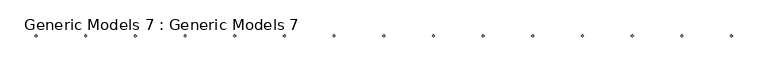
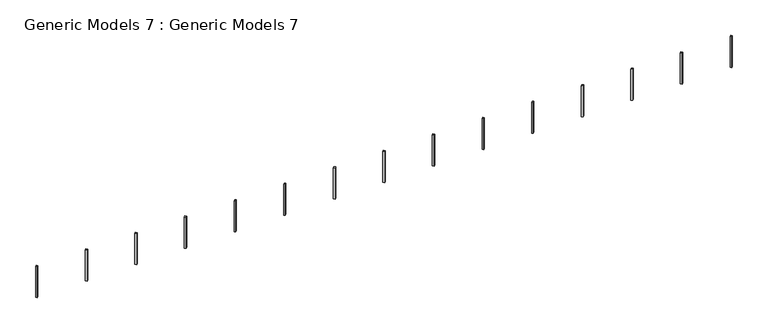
"""IFC4 building model written with IfcOpenShell, lengths in millimetres: proxy geometry, Generic Models 7 : Generic Models 7."""

from ifc_helpers import new_model, si_unit, frame, origin, place, context, project, spatial, polyline, outline, extrude, source, transform, mapped, element, save


def generic_models_7_generic_models_7_7c2eb50a(model_context):
    return source(origin(), model_context, "Body", "SweptSolid", [
        extrude(outline(polyline([(-131782.955023, -33391.4795591), (-131924.3763793, -33532.9009153), (-132065.7977355, -33391.4795591), (-131924.3763793, -33250.0582029), (-131782.955023, -33391.4795591)])), frame((0.0, 0.0, 44170.0), z_axis=(0.0, 0.0, 1.0), x_axis=(1.0, 0.0, 0.0)), (0.0, 0.0, 1.0), 3948.0583858),
        extrude(outline(polyline([(-125797.6317423, -33391.4795591), (-125939.0530986, -33532.9009153), (-126080.4744548, -33391.4795591), (-125939.0530986, -33250.0582029), (-125797.6317423, -33391.4795591)])), frame((0.0, 0.0, 44170.0), z_axis=(0.0, 0.0, 1.0), x_axis=(1.0, 0.0, 0.0)), (0.0, 0.0, 1.0), 3948.0583858),
        extrude(outline(polyline([(-119812.3084617, -33391.4795591), (-119953.7298179, -33532.9009153), (-120095.1511741, -33391.4795591), (-119953.7298179, -33250.0582029), (-119812.3084617, -33391.4795591)])), frame((0.0, 0.0, 44170.0), z_axis=(0.0, 0.0, 1.0), x_axis=(1.0, 0.0, 0.0)), (0.0, 0.0, 1.0), 3948.0583858),
        extrude(outline(polyline([(-113826.985181, -33391.4795591), (-113968.4065372, -33532.9009153), (-114109.8278935, -33391.4795591), (-113968.4065372, -33250.0582029), (-113826.985181, -33391.4795591)])), frame((0.0, 0.0, 44170.0), z_axis=(0.0, 0.0, 1.0), x_axis=(1.0, 0.0, 0.0)), (0.0, 0.0, 1.0), 3948.0583858),
        extrude(outline(polyline([(-107841.6619003, -33391.4795591), (-107983.0832565, -33532.9009153), (-108124.5046128, -33391.4795591), (-107983.0832565, -33250.0582029), (-107841.6619003, -33391.4795591)])), frame((0.0, 0.0, 44170.0), z_axis=(0.0, 0.0, 1.0), x_axis=(1.0, 0.0, 0.0)), (0.0, 0.0, 1.0), 3948.0583858),
        extrude(outline(polyline([(-101856.3386196, -33391.4795591), (-101997.7599759, -33532.9009153), (-102139.1813321, -33391.4795591), (-101997.7599759, -33250.0582029), (-101856.3386196, -33391.4795591)])), frame((0.0, 0.0, 44170.0), z_axis=(0.0, 0.0, 1.0), x_axis=(1.0, 0.0, 0.0)), (0.0, 0.0, 1.0), 3948.0583858),
        extrude(outline(polyline([(-95871.015339, -33391.4795591), (-96012.4366952, -33532.9009153), (-96153.8580514, -33391.4795591), (-96012.4366952, -33250.0582029), (-95871.015339, -33391.4795591)])), frame((0.0, 0.0, 44170.0), z_axis=(0.0, 0.0, 1.0), x_axis=(1.0, 0.0, 0.0)), (0.0, 0.0, 1.0), 3948.0583858),
        extrude(outline(polyline([(-89885.6920583, -33391.4795591), (-90027.1134145, -33532.9009153), (-90168.5347708, -33391.4795591), (-90027.1134145, -33250.0582029), (-89885.6920583, -33391.4795591)])), frame((0.0, 0.0, 44170.0), z_axis=(0.0, 0.0, 1.0), x_axis=(1.0, 0.0, 0.0)), (0.0, 0.0, 1.0), 3948.0583858),
        extrude(outline(polyline([(-83900.3687776, -33391.4795591), (-84041.7901338, -33532.9009153), (-84183.2114901, -33391.4795591), (-84041.7901338, -33250.0582029), (-83900.3687776, -33391.4795591)])), frame((0.0, 0.0, 44170.0), z_axis=(0.0, 0.0, 1.0), x_axis=(1.0, 0.0, 0.0)), (0.0, 0.0, 1.0), 3948.0583858),
        extrude(outline(polyline([(-77915.0454969, -33391.4795591), (-78056.4668532, -33532.9009153), (-78197.8882094, -33391.4795591), (-78056.4668532, -33250.0582029), (-77915.0454969, -33391.4795591)])), frame((0.0, 0.0, 44170.0), z_axis=(0.0, 0.0, 1.0), x_axis=(1.0, 0.0, 0.0)), (0.0, 0.0, 1.0), 3948.0583858),
        extrude(outline(polyline([(-71929.7222162, -33391.4795591), (-72071.1435725, -33532.9009153), (-72212.5649287, -33391.4795591), (-72071.1435725, -33250.0582029), (-71929.7222162, -33391.4795591)])), frame((0.0, 0.0, 44170.0), z_axis=(0.0, 0.0, 1.0), x_axis=(1.0, 0.0, 0.0)), (0.0, 0.0, 1.0), 3948.0583858),
        extrude(outline(polyline([(-65944.3989356, -33391.4795591), (-66085.8202918, -33532.9009153), (-66227.241648, -33391.4795591), (-66085.8202918, -33250.0582029), (-65944.3989356, -33391.4795591)])), frame((0.0, 0.0, 44170.0), z_axis=(0.0, 0.0, 1.0), x_axis=(1.0, 0.0, 0.0)), (0.0, 0.0, 1.0), 3948.0583858),
        extrude(outline(polyline([(-59959.0756549, -33391.4795591), (-60100.4970111, -33532.9009153), (-60241.9183674, -33391.4795591), (-60100.4970111, -33250.0582029), (-59959.0756549, -33391.4795591)])), frame((0.0, 0.0, 44170.0), z_axis=(0.0, 0.0, 1.0), x_axis=(1.0, 0.0, 0.0)), (0.0, 0.0, 1.0), 3948.0583858),
        extrude(outline(polyline([(-53973.7523742, -33391.4795591), (-54115.1737304, -33532.9009153), (-54256.5950867, -33391.4795591), (-54115.1737304, -33250.0582029), (-53973.7523742, -33391.4795591)])), frame((0.0, 0.0, 44170.0), z_axis=(0.0, 0.0, 1.0), x_axis=(1.0, 0.0, 0.0)), (0.0, 0.0, 1.0), 3948.0583858),
        extrude(outline(polyline([(-47988.4290935, -33391.4795591), (-48129.8504498, -33532.9009153), (-48271.271806, -33391.4795591), (-48129.8504498, -33250.0582029), (-47988.4290935, -33391.4795591)])), frame((0.0, 0.0, 44170.0), z_axis=(0.0, 0.0, 1.0), x_axis=(1.0, 0.0, 0.0)), (0.0, 0.0, 1.0), 3948.0583858),
    ])


if __name__ == "__main__":
    model = new_model("IFC4")
    model_context = context("Model", 3, world=origin())
    ifc_project = project(units=[si_unit("LENGTHUNIT", "METRE", prefix="MILLI")], contexts=[model_context])
    site = spatial("IfcSite", under=ifc_project)
    building = spatial("IfcBuilding", under=site)
    placement = place(None, origin())
    generic_models_7_generic_models_7_shape = generic_models_7_generic_models_7_7c2eb50a(model_context)
    element("IfcBuildingElementProxy", 1, Name="Generic Models 7 : Generic Models 7", ObjectType="Generic Models 7 : Generic Models 7", at=placement, inside=building, context=model_context, shape_type="MappedRepresentation", body=[
        mapped(generic_models_7_generic_models_7_shape, transform((0.0, 0.0, 0.0), x_axis=(1.0, 0.0, 0.0), y_axis=(0.0, 1.0, 0.0), z_axis=(0.0, 0.0, 1.0))),
    ])
    save(model, "model.ifc")
